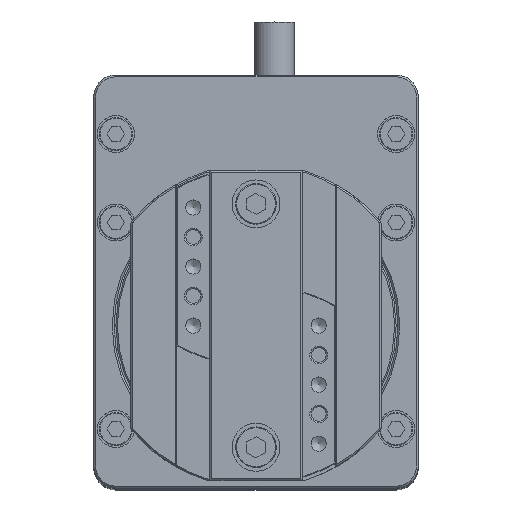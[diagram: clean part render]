
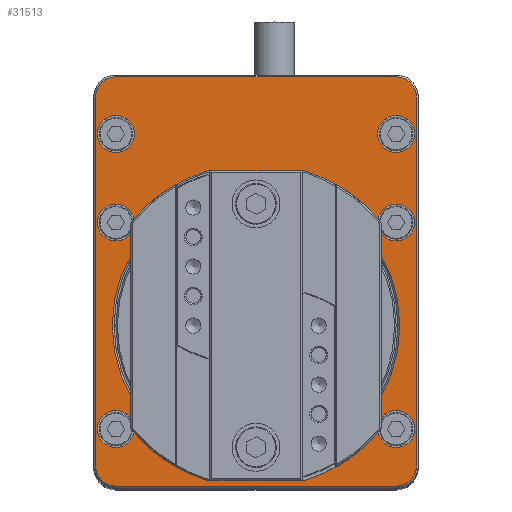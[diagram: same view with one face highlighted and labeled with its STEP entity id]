
A CAD part, top view. The second image highlights one B-rep face of the part: STEP entity #31513.
In plain terms, the highlighted planar face has unit normal (0, 0, 1).
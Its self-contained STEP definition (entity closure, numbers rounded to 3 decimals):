
#237 = CARTESIAN_POINT ( 'NONE',  ( 19., 14., 2. ) ) ;
#543 = CARTESIAN_POINT ( 'NONE',  ( 21.5, 26., 2. ) ) ;
#544 = CARTESIAN_POINT ( 'NONE',  ( 19., 31., 2. ) ) ;
#775 = DIRECTION ( 'NONE',  ( 0., 0., -1. ) ) ;
#1711 = PLANE ( 'NONE',  #12978 ) ;
#1910 = ORIENTED_EDGE ( 'NONE', *, *, #9515, .F. ) ;
#2051 = VECTOR ( 'NONE', #32212, 1000. ) ;
#2609 = EDGE_LOOP ( 'NONE', ( #23475 ) ) ;
#2657 = ORIENTED_EDGE ( 'NONE', *, *, #13265, .T. ) ;
#2826 = VERTEX_POINT ( 'NONE', #34555 ) ;
#3057 = CARTESIAN_POINT ( 'NONE',  ( -21.75, -19., 2. ) ) ;
#3514 = CIRCLE ( 'NONE', #10674, 2.75 ) ;
#3723 = DIRECTION ( 'NONE',  ( 1., 0., 0. ) ) ;
#3857 = DIRECTION ( 'NONE',  ( 0., 0., 1. ) ) ;
#3913 = ORIENTED_EDGE ( 'NONE', *, *, #24265, .T. ) ;
#5269 = CIRCLE ( 'NONE', #9456, 2.75 ) ;
#5577 = FACE_BOUND ( 'NONE', #38054, .T. ) ;
#6139 = DIRECTION ( 'NONE',  ( 0., 0., 1. ) ) ;
#6434 = EDGE_CURVE ( 'NONE', #30570, #38836, #9079, .T. ) ;
#6557 = DIRECTION ( 'NONE',  ( 0., 1., 0. ) ) ;
#6597 = DIRECTION ( 'NONE',  ( 1., 0., 0. ) ) ;
#6757 = ORIENTED_EDGE ( 'NONE', *, *, #7795, .F. ) ;
#6960 = FACE_BOUND ( 'NONE', #32047, .T. ) ;
#7196 = DIRECTION ( 'NONE',  ( 0., 0., 1. ) ) ;
#7221 = CIRCLE ( 'NONE', #23788, 2.75 ) ;
#7406 = CIRCLE ( 'NONE', #34609, 2.5 ) ;
#7588 = CARTESIAN_POINT ( 'NONE',  ( 0., 0., 2. ) ) ;
#7795 = EDGE_CURVE ( 'NONE', #36260, #36260, #36668, .T. ) ;
#8433 = ORIENTED_EDGE ( 'NONE', *, *, #20865, .T. ) ;
#8565 = AXIS2_PLACEMENT_3D ( 'NONE', #16827, #39270, #20006 ) ;
#9079 = CIRCLE ( 'NONE', #14961, 2.75 ) ;
#9201 = CARTESIAN_POINT ( 'NONE',  ( -19., -21.75, 2. ) ) ;
#9456 = AXIS2_PLACEMENT_3D ( 'NONE', #544, #22890, #3723 ) ;
#9515 = EDGE_CURVE ( 'NONE', #25736, #25736, #11245, .T. ) ;
#10092 = VERTEX_POINT ( 'NONE', #32137 ) ;
#10529 = CARTESIAN_POINT ( 'NONE',  ( 19.5, 0., 2. ) ) ;
#10674 = AXIS2_PLACEMENT_3D ( 'NONE', #30698, #11451, #33953 ) ;
#10983 = EDGE_CURVE ( 'NONE', #39806, #39806, #41313, .T. ) ;
#11245 = CIRCLE ( 'NONE', #39934, 2.5 ) ;
#11368 = DIRECTION ( 'NONE',  ( -1., 0., 0. ) ) ;
#11451 = DIRECTION ( 'NONE',  ( 0., 0., 1. ) ) ;
#11599 = EDGE_LOOP ( 'NONE', ( #3913, #30317, #8433, #19970, #38709, #13412, #11875, #13288 ) ) ;
#11634 = VERTEX_POINT ( 'NONE', #27524 ) ;
#11644 = CARTESIAN_POINT ( 'NONE',  ( 21.75, 31., 2. ) ) ;
#11715 = LINE ( 'NONE', #3057, #16114 ) ;
#11875 = ORIENTED_EDGE ( 'NONE', *, *, #40924, .T. ) ;
#12978 = AXIS2_PLACEMENT_3D ( 'NONE', #30528, #17743, #40216 ) ;
#13265 = EDGE_CURVE ( 'NONE', #27234, #27234, #30047, .T. ) ;
#13288 = ORIENTED_EDGE ( 'NONE', *, *, #37076, .T. ) ;
#13412 = ORIENTED_EDGE ( 'NONE', *, *, #38555, .T. ) ;
#13861 = FACE_BOUND ( 'NONE', #31231, .T. ) ;
#14679 = CARTESIAN_POINT ( 'NONE',  ( -19., 33.75, 2. ) ) ;
#14961 = AXIS2_PLACEMENT_3D ( 'NONE', #29589, #7196, #26367 ) ;
#15546 = CARTESIAN_POINT ( 'NONE',  ( 19., -21.75, 2. ) ) ;
#15690 = DIRECTION ( 'NONE',  ( 0., 0., 1. ) ) ;
#15920 = DIRECTION ( 'NONE',  ( 0., -1., 0. ) ) ;
#16114 = VECTOR ( 'NONE', #15920, 1000. ) ;
#16315 = ORIENTED_EDGE ( 'NONE', *, *, #35741, .F. ) ;
#16353 = CARTESIAN_POINT ( 'NONE',  ( 19., 26., 2. ) ) ;
#16827 = CARTESIAN_POINT ( 'NONE',  ( -19., 26., 2. ) ) ;
#17743 = DIRECTION ( 'NONE',  ( 0., 0., 1. ) ) ;
#17868 = CARTESIAN_POINT ( 'NONE',  ( 19., 33.75, 2. ) ) ;
#18029 = EDGE_CURVE ( 'NONE', #11634, #11634, #7406, .T. ) ;
#18528 = EDGE_LOOP ( 'NONE', ( #29698 ) ) ;
#18706 = VERTEX_POINT ( 'NONE', #29009 ) ;
#18742 = VERTEX_POINT ( 'NONE', #9201 ) ;
#19181 = AXIS2_PLACEMENT_3D ( 'NONE', #16353, #6139, #34947 ) ;
#19940 = VERTEX_POINT ( 'NONE', #14679 ) ;
#19970 = ORIENTED_EDGE ( 'NONE', *, *, #28026, .T. ) ;
#20006 = DIRECTION ( 'NONE',  ( 1., 0., 0. ) ) ;
#20073 = AXIS2_PLACEMENT_3D ( 'NONE', #34925, #15690, #38101 ) ;
#20546 = VECTOR ( 'NONE', #11368, 1000. ) ;
#20682 = CIRCLE ( 'NONE', #8565, 2.5 ) ;
#20865 = EDGE_CURVE ( 'NONE', #18706, #18742, #7221, .T. ) ;
#21232 = LINE ( 'NONE', #35421, #2051 ) ;
#21338 = EDGE_LOOP ( 'NONE', ( #24424 ) ) ;
#21912 = VERTEX_POINT ( 'NONE', #17868 ) ;
#22890 = DIRECTION ( 'NONE',  ( 0., 0., 1. ) ) ;
#23475 = ORIENTED_EDGE ( 'NONE', *, *, #33904, .F. ) ;
#23788 = AXIS2_PLACEMENT_3D ( 'NONE', #24554, #24099, #27080 ) ;
#24037 = CARTESIAN_POINT ( 'NONE',  ( 21.75, -19., 2. ) ) ;
#24099 = DIRECTION ( 'NONE',  ( 0., 0., 1. ) ) ;
#24265 = EDGE_CURVE ( 'NONE', #19940, #2826, #3514, .T. ) ;
#24424 = ORIENTED_EDGE ( 'NONE', *, *, #10983, .F. ) ;
#24554 = CARTESIAN_POINT ( 'NONE',  ( -19., -19., 2. ) ) ;
#24749 = DIRECTION ( 'NONE',  ( 1., 0., 0. ) ) ;
#24844 = DIRECTION ( 'NONE',  ( 0., 0., 1. ) ) ;
#25736 = VERTEX_POINT ( 'NONE', #39015 ) ;
#25909 = FACE_BOUND ( 'NONE', #2609, .T. ) ;
#26226 = DIRECTION ( 'NONE',  ( 1., 0., 0. ) ) ;
#26367 = DIRECTION ( 'NONE',  ( 1., 0., 0. ) ) ;
#26839 = DIRECTION ( 'NONE',  ( 0., 0., 1. ) ) ;
#27080 = DIRECTION ( 'NONE',  ( 1., 0., 0. ) ) ;
#27234 = VERTEX_POINT ( 'NONE', #10529 ) ;
#27524 = CARTESIAN_POINT ( 'NONE',  ( -16.5, 14., 2. ) ) ;
#27529 = LINE ( 'NONE', #28988, #36038 ) ;
#27667 = EDGE_LOOP ( 'NONE', ( #6757 ) ) ;
#27951 = EDGE_CURVE ( 'NONE', #2826, #18706, #11715, .T. ) ;
#27955 = DIRECTION ( 'NONE',  ( 1., 0., 0. ) ) ;
#28026 = EDGE_CURVE ( 'NONE', #18742, #30570, #21232, .T. ) ;
#28988 = CARTESIAN_POINT ( 'NONE',  ( 21.75, 31., 2. ) ) ;
#29009 = CARTESIAN_POINT ( 'NONE',  ( -21.75, -19., 2. ) ) ;
#29257 = CARTESIAN_POINT ( 'NONE',  ( -19., 14., 2. ) ) ;
#29509 = FACE_BOUND ( 'NONE', #18528, .T. ) ;
#29589 = CARTESIAN_POINT ( 'NONE',  ( 19., -19., 2. ) ) ;
#29698 = ORIENTED_EDGE ( 'NONE', *, *, #18029, .F. ) ;
#30047 = CIRCLE ( 'NONE', #41422, 19.5 ) ;
#30317 = ORIENTED_EDGE ( 'NONE', *, *, #27951, .T. ) ;
#30528 = CARTESIAN_POINT ( 'NONE',  ( 0., 0., 2. ) ) ;
#30570 = VERTEX_POINT ( 'NONE', #15546 ) ;
#30698 = CARTESIAN_POINT ( 'NONE',  ( -19., 31., 2. ) ) ;
#31231 = EDGE_LOOP ( 'NONE', ( #2657 ) ) ;
#31513 = ADVANCED_FACE ( 'NONE', ( #13861, #41350, #25909, #38897, #39881, #5577, #29509, #6960 ), #1711, .T. ) ;
#31672 = VERTEX_POINT ( 'NONE', #38694 ) ;
#32047 = EDGE_LOOP ( 'NONE', ( #16315 ) ) ;
#32137 = CARTESIAN_POINT ( 'NONE',  ( 21.5, -14., 2. ) ) ;
#32212 = DIRECTION ( 'NONE',  ( 1., 0., 0. ) ) ;
#33864 = CARTESIAN_POINT ( 'NONE',  ( -19., 33.75, 2. ) ) ;
#33904 = EDGE_CURVE ( 'NONE', #10092, #10092, #33989, .T. ) ;
#33953 = DIRECTION ( 'NONE',  ( 1., 0., 0. ) ) ;
#33989 = CIRCLE ( 'NONE', #20073, 2.5 ) ;
#34555 = CARTESIAN_POINT ( 'NONE',  ( -21.75, 31., 2. ) ) ;
#34609 = AXIS2_PLACEMENT_3D ( 'NONE', #29257, #26839, #24749 ) ;
#34730 = VERTEX_POINT ( 'NONE', #11644 ) ;
#34925 = CARTESIAN_POINT ( 'NONE',  ( 19., -14., 2. ) ) ;
#34947 = DIRECTION ( 'NONE',  ( 1., 0., 0. ) ) ;
#35421 = CARTESIAN_POINT ( 'NONE',  ( 19., -21.75, 2. ) ) ;
#35741 = EDGE_CURVE ( 'NONE', #31672, #31672, #20682, .T. ) ;
#36038 = VECTOR ( 'NONE', #6557, 1000. ) ;
#36260 = VERTEX_POINT ( 'NONE', #543 ) ;
#36668 = CIRCLE ( 'NONE', #19181, 2.5 ) ;
#36748 = AXIS2_PLACEMENT_3D ( 'NONE', #237, #3857, #6597 ) ;
#37076 = EDGE_CURVE ( 'NONE', #21912, #19940, #38652, .T. ) ;
#37714 = CARTESIAN_POINT ( 'NONE',  ( -19., -14., 2. ) ) ;
#38054 = EDGE_LOOP ( 'NONE', ( #1910 ) ) ;
#38101 = DIRECTION ( 'NONE',  ( 1., 0., 0. ) ) ;
#38555 = EDGE_CURVE ( 'NONE', #38836, #34730, #27529, .T. ) ;
#38652 = LINE ( 'NONE', #33864, #20546 ) ;
#38694 = CARTESIAN_POINT ( 'NONE',  ( -16.5, 26., 2. ) ) ;
#38709 = ORIENTED_EDGE ( 'NONE', *, *, #6434, .T. ) ;
#38836 = VERTEX_POINT ( 'NONE', #24037 ) ;
#38897 = FACE_BOUND ( 'NONE', #21338, .T. ) ;
#39015 = CARTESIAN_POINT ( 'NONE',  ( -16.5, -14., 2. ) ) ;
#39158 = CARTESIAN_POINT ( 'NONE',  ( 21.5, 14., 2. ) ) ;
#39270 = DIRECTION ( 'NONE',  ( 0., 0., 1. ) ) ;
#39806 = VERTEX_POINT ( 'NONE', #39158 ) ;
#39881 = FACE_BOUND ( 'NONE', #27667, .T. ) ;
#39934 = AXIS2_PLACEMENT_3D ( 'NONE', #37714, #24844, #27955 ) ;
#40216 = DIRECTION ( 'NONE',  ( 1., 0., 0. ) ) ;
#40924 = EDGE_CURVE ( 'NONE', #34730, #21912, #5269, .T. ) ;
#41313 = CIRCLE ( 'NONE', #36748, 2.5 ) ;
#41350 = FACE_OUTER_BOUND ( 'NONE', #11599, .T. ) ;
#41422 = AXIS2_PLACEMENT_3D ( 'NONE', #7588, #775, #26226 ) ;
